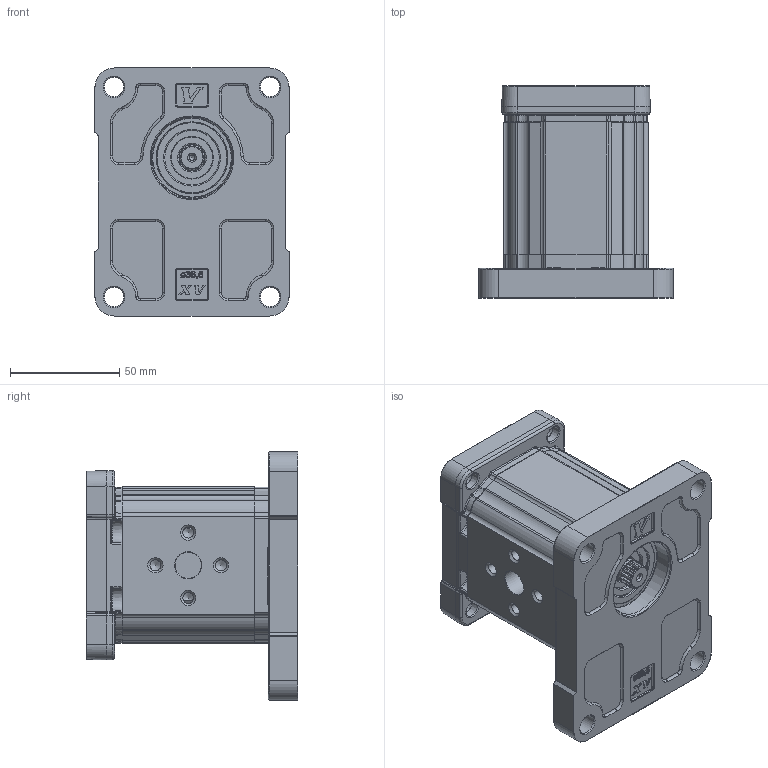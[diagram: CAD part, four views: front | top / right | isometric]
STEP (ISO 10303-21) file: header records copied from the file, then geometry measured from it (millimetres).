
FILE_DESCRIPTION(/* description */ ('Unknown'),/* implementation_level */ '2;1');
FILE_NAME(/* name */ 'X1I3182SIIA',/* time_stamp */ '2026-05-27T08:43:47+02:00',/* author */ ('Unknown'),/* organization */ ('Unknown'),/* preprocessor_version */ 'ST-DEVELOPER v16.7',/* originating_system */ 'Solid Edge',/* authorisation */ 'Unknown');
FILE_SCHEMA (('AUTOMOTIVE_DESIGN {1 0 10303 214 3 1 1}'));
Products named in the file (5): X1I3182SIIA; X1I82; 1S; X1IIH60,5; XI103-A
Assembly tree (4 placements, depth 2):
  X1I3182SIIA
    X1I82
    1S
    X1IIH60,5
    XI103-A
Bounding box: 89 x 97 x 113.7 mm (x, y, z)
Volume: 458707.1 mm3; surface area: 87834.6 mm2
Topology: 5 solids, 5 shells, 1955 faces, 4924 edges, 3006 vertices
Faces by surface type: cylinder 713, plane 433, torus 323, bspline 307, cone 167, sphere 12
Full cylindrical faces by diameter (mm): 2.5 x2, 3 x2, 3.65 x2, 4 x2, 5 x8, 7.15 x4, 8 x4, 8.5 x4, 9 x6, 9.337 x4, 9.9 x2, 10.5 x2, 11.965 x2, 12 x2, 13 x4, 13.107 x1, 14.692 x1, 17.135 x1, 19 x3, 21.4 x1, 25 x1, 25.4 x1, 32.5 x1, 36.5 x1
Entity records: 80563 total; most frequent: CARTESIAN_POINT 22941, DIRECTION 9306, ORIENTED_EDGE 9228, EDGE_CURVE 4614, AXIS2_PLACEMENT_3D 3820, VERTEX_POINT 2926, FACE_BOUND 2248, EDGE_LOOP 2238
